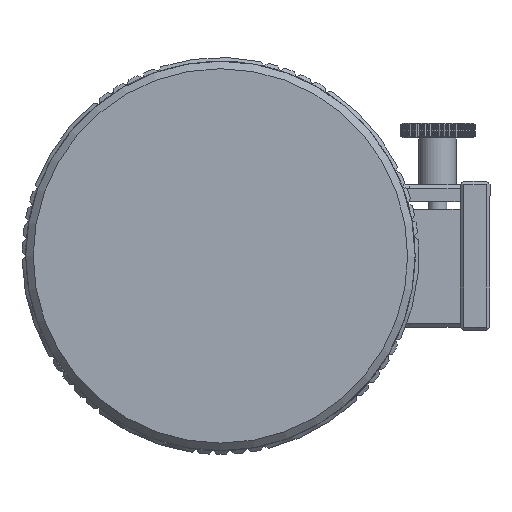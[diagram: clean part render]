
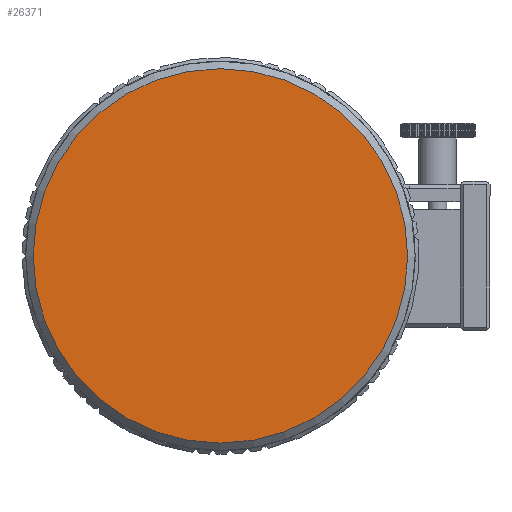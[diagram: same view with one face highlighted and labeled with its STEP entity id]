
A CAD part, left-side view. The second image highlights one B-rep face of the part: STEP entity #26371.
In plain terms, the highlighted planar face has unit normal (-1, 0, 0).
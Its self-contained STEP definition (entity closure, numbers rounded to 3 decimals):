
#26351=CARTESIAN_POINT('',(-172.682,-50.,0.044));
#26352=VERTEX_POINT('',#26351);
#26353=CARTESIAN_POINT('',(-172.682,0.,0.));
#26354=DIRECTION('',(1.0,0.,0.));
#26355=DIRECTION('',(0.,1.,-0.001));
#26356=AXIS2_PLACEMENT_3D('',#26353,#26354,#26355);
#26357=CIRCLE('',#26356,50.);
#26358=EDGE_CURVE('',#26352,#26352,#26357,.T.);
#26363=CARTESIAN_POINT('',(-172.682,-49.75,0.044));
#26364=DIRECTION('',(-1.0,0.0,0.0));
#26365=DIRECTION('',(0.0,0.001,1.));
#26366=AXIS2_PLACEMENT_3D('',#26363,#26364,#26365);
#26367=PLANE('',#26366);
#26368=ORIENTED_EDGE('',*,*,#26358,.F.);
#26369=EDGE_LOOP('',(#26368));
#26370=FACE_OUTER_BOUND('',#26369,.T.);
#26371=ADVANCED_FACE('',(#26370),#26367,.T.);
